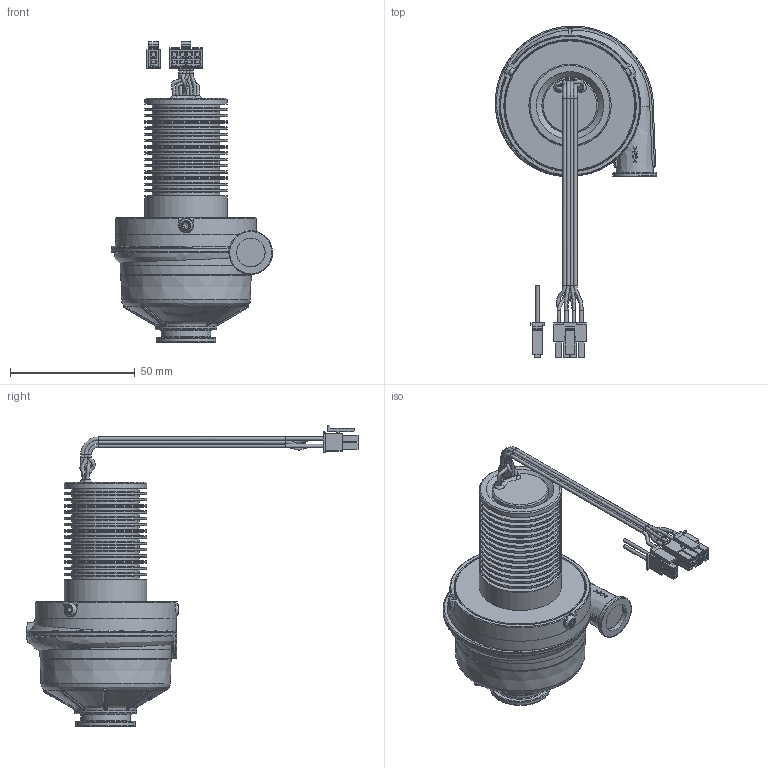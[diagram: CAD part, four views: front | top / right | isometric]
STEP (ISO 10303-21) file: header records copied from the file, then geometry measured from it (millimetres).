
FILE_DESCRIPTION(/* description */ (''),/* implementation_level */ '2;1');
FILE_NAME(/* name */ 'U65H4-024KX-6.stp',/* time_stamp */ '2014-04-25T15:52:14+02:00',/* author */ (''),/* organization */ (''),/* preprocessor_version */ 'ST-DEVELOPER v11',/* originating_system */ 'SIEMENS PLM Software NX 7.5',/* authorisation */ '');
FILE_SCHEMA (('AUTOMOTIVE_DESIGN { 1 0 10303 214 1 1 1 1 }'));
Length unit declared in the file: millimetre
Products named in the file (1): U65H4-024KX-6
Bounding box: 64.62 x 132.99 x 120.55 mm (x, y, z)
Volume: 381.8 mm3; surface area: 32861.4 mm2
Topology: 2 solids, 3 shells, 887 faces, 2285 edges, 1476 vertices
Faces by surface type: plane 498, cylinder 189, torus 76, cone 52, bspline 50, sphere 14, extrusion 7, revolution 1
Full cylindrical faces by diameter (mm): 1.4 x26, 3 x3, 17.5 x1, 20 x1, 22.6 x1, 24 x1, 24.8 x1, 27 x15, 33 x16, 52.479 x1
Entity records: 39526 total; most frequent: CARTESIAN_POINT 14259, ORIENTED_EDGE 4058, DIRECTION 3379, EDGE_CURVE 2029, VERTEX_POINT 1418, EDGE_LOOP 1190, AXIS2_PLACEMENT_3D 1164, VECTOR 1050
